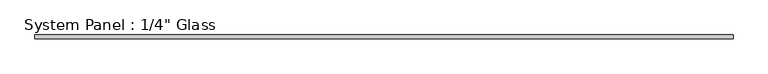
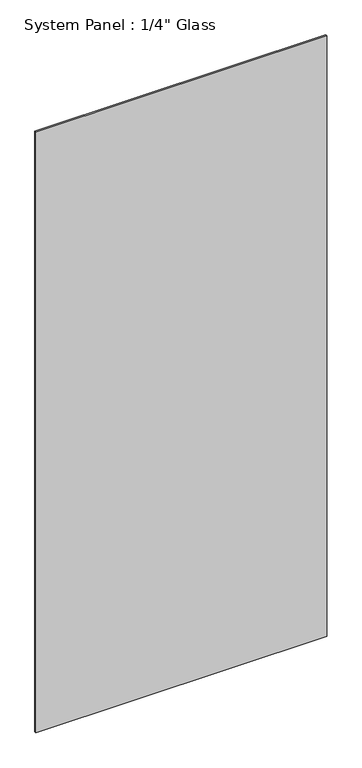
"""IFC4 building model written with IfcOpenShell, lengths in millimetres: plate geometry."""

from ifc_helpers import new_model, si_unit, origin, origin_with_axes, place, context, project, spatial, polyline, outline, extrude, source, transform, mapped, element, save


def plate_6ecefdb5(model_context):
    return source(origin(), model_context, "Body", "SweptSolid", [
        extrude(outline(polyline([(569.999085, -3.175), (-569.999085, -3.175), (-569.999085, 3.175), (569.999085, 3.175), (569.999085, -3.175)])), origin_with_axes(), (0.0, 0.0, 1.0), 2489.2),
    ])


if __name__ == "__main__":
    model = new_model("IFC4")
    model_context = context("Model", 3, world=origin())
    ifc_project = project(units=[si_unit("LENGTHUNIT", "METRE", prefix="MILLI")], contexts=[model_context])
    site = spatial("IfcSite", under=ifc_project)
    building = spatial("IfcBuilding", under=site)
    placement = place(None, origin())
    plate_shape = plate_6ecefdb5(model_context)
    element("IfcPlate", 1, ObjectType="System Panel : 1/4\" Glass", at=placement, inside=building, context=model_context, shape_type="MappedRepresentation", body=[
        mapped(plate_shape, transform((0.0, 0.0, 0.0), x_axis=(1.0, 0.0, 0.0), y_axis=(0.0, 1.0, 0.0), z_axis=(0.0, 0.0, 1.0))),
    ])
    save(model, "model.ifc")
